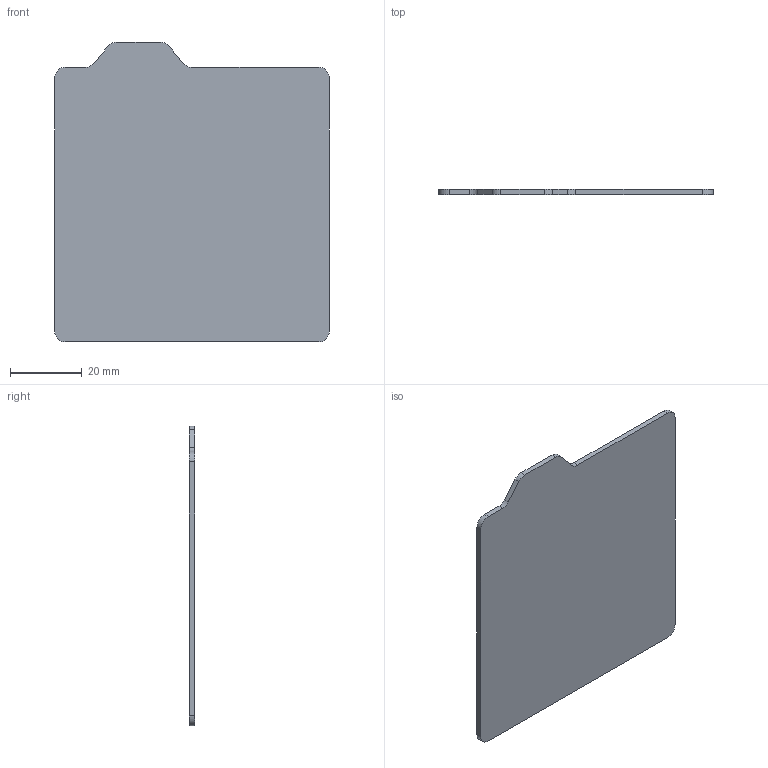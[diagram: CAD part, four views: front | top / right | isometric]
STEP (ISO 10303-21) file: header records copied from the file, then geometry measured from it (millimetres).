
FILE_DESCRIPTION(/* description */ (''),/* implementation_level */ '2;1');
FILE_NAME(/* name */ 'stencil - left tab.step',/* time_stamp */ '2025-05-20T09:48:58+08:00',/* author */ (''),/* organization */ (''),/* preprocessor_version */ 'ST-DEVELOPER v20.1',/* originating_system */ 'Autodesk Translation Framework v14.4.0.0',/* authorisation */ '');
FILE_SCHEMA (('AUTOMOTIVE_DESIGN { 1 0 10303 214 3 1 1 }'));
Length unit declared in the file: millimetre
Products named in the file (1): Sticky note holder with stencils
Bounding box: 76.5 x 1.5 x 83.5 mm (x, y, z)
Volume: 8986 mm3; surface area: 12441.3 mm2
Topology: 1 solids, 1 shells, 18 faces, 48 edges, 32 vertices
Faces by surface type: plane 10, cylinder 8
Entity records: 615 total; most frequent: DIRECTION 102, CARTESIAN_POINT 99, ORIENTED_EDGE 96, EDGE_CURVE 48, AXIS2_PLACEMENT_3D 35, LINE 32, VECTOR 32, VERTEX_POINT 32
